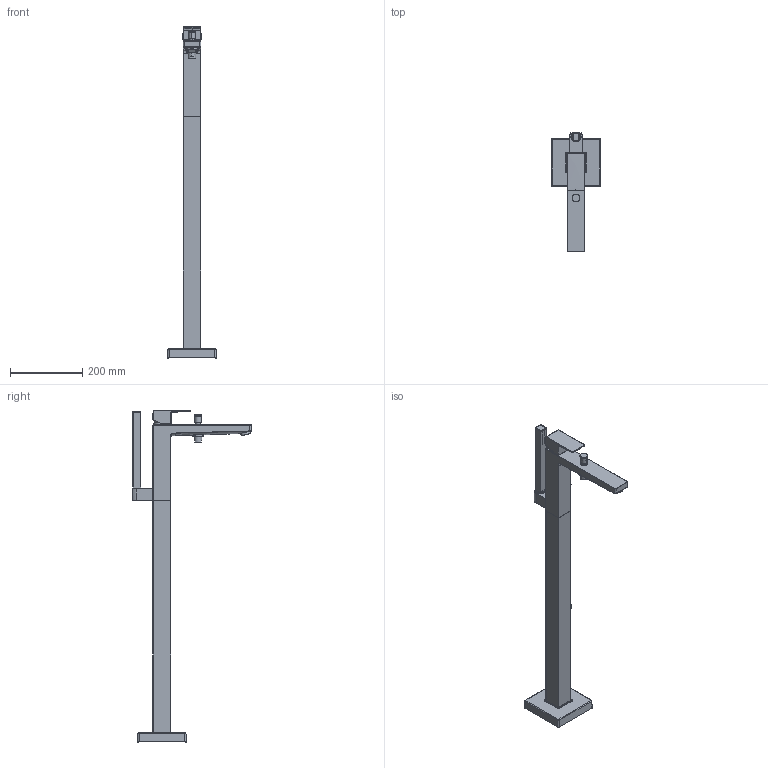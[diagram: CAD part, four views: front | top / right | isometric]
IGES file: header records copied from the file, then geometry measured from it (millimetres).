
Global section: file name: D:\01_Planungsdaten\Armatur\Manhattan\MH5250000010_MH5250000046\3D\MH5250000010_MH5250000046.igs; native system: Rhinoceros ( Sep 13 2016 ); preprocessor: Trout Lake IGES 012 Sep 13 2016; date: 230814.062811; units: millimetre
Bounding box: 135 x 329.32 x 919.94 mm (x, y, z)
Surface area: 443679.7 mm2 (no closed solid volume)
Topology: 0 solids, 0 shells, 2115 faces, 14552 edges, 14527 vertices
Faces by surface type: bspline 2115
